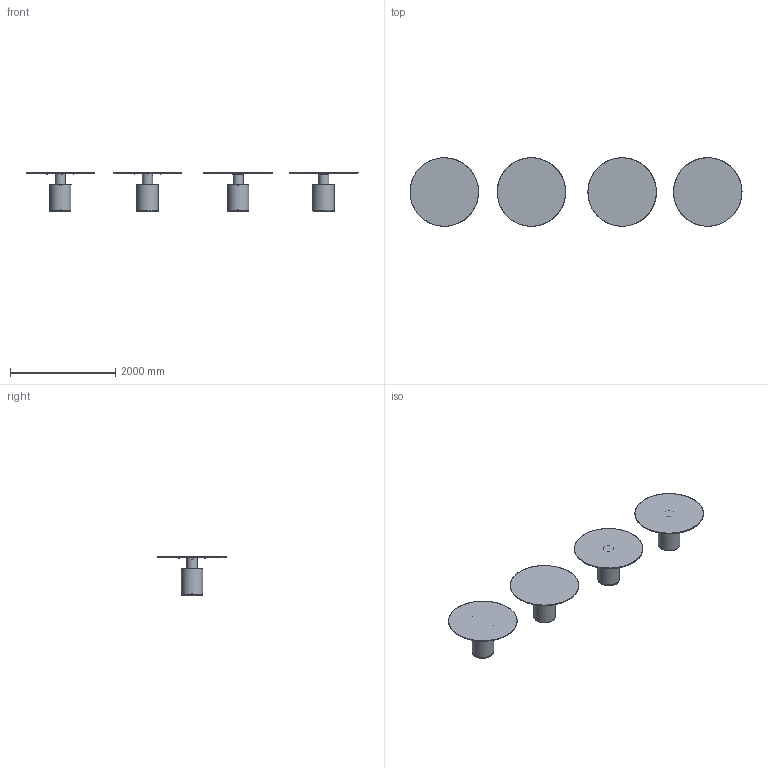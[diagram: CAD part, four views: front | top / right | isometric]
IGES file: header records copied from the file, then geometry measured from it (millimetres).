
Start section: SolidWorks IGES file using NURBS representation for surfaces SolidWorks IGES file using NURBS representation for surfaces SolidWorks IGES file using NURBS representation for surfaces SolidWorks IGES file using NURBS representation for surfaces
Global section: file name: \\fs\Gruppi\Tecnico\UFFICIO TECNICO\PROGETTI in SVILUPPO\2021\CRESO\3D\CRESO -  D.130.igs; native system: Rhinoceros ( May  7 2019 ); preprocessor: Trout Lake IGES 012 May  7 2019; date: 210715.131433; units: millimetre
Bounding box: 6295.83 x 1300 x 730 mm (x, y, z)
Surface area: 22466394.8 mm2 (no closed solid volume)
Topology: 0 solids, 0 shells, 512 faces, 2430 edges, 2256 vertices
Faces by surface type: bspline 512
